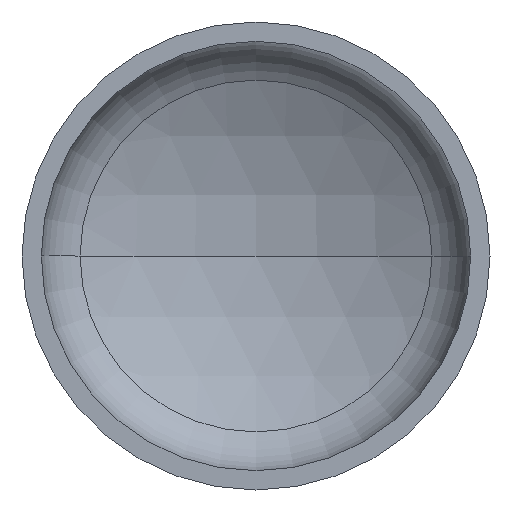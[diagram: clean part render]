
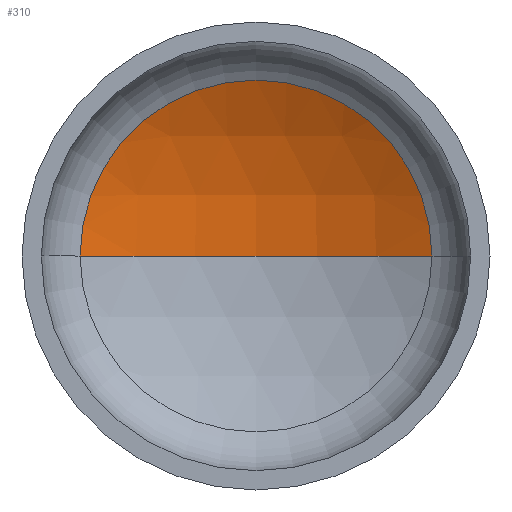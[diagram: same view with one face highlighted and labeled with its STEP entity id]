
A CAD part, front view. The second image highlights one B-rep face of the part: STEP entity #310.
In plain terms, the highlighted spherical face has radius 640 mm.
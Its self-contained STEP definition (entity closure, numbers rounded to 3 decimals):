
#7 = VERTEX_POINT ( 'NONE', #233 ) ;
#8 = AXIS2_PLACEMENT_3D ( 'NONE', #391, #181, #125 ) ;
#18 = CARTESIAN_POINT ( 'NONE',  ( 0., -354.6, 0. ) ) ;
#21 = EDGE_LOOP ( 'NONE', ( #61, #30, #35 ) ) ;
#30 = ORIENTED_EDGE ( 'NONE', *, *, #131, .T. ) ;
#31 = AXIS2_PLACEMENT_3D ( 'NONE', #328, #188, #184 ) ;
#35 = ORIENTED_EDGE ( 'NONE', *, *, #87, .T. ) ;
#38 = AXIS2_PLACEMENT_3D ( 'NONE', #18, #253, #217 ) ;
#40 = AXIS2_PLACEMENT_3D ( 'NONE', #209, #205, #207 ) ;
#61 = ORIENTED_EDGE ( 'NONE', *, *, #148, .F. ) ;
#67 = VERTEX_POINT ( 'NONE', #252 ) ;
#87 = EDGE_CURVE ( 'NONE', #67, #113, #156, .T. ) ;
#110 = SPHERICAL_SURFACE ( 'NONE', #8, 640. ) ;
#113 = VERTEX_POINT ( 'NONE', #257 ) ;
#125 = DIRECTION ( 'NONE',  ( -1., 0., 0. ) ) ;
#131 = EDGE_CURVE ( 'NONE', #7, #67, #149, .T. ) ;
#148 = EDGE_CURVE ( 'NONE', #7, #113, #399, .T. ) ;
#149 = CIRCLE ( 'NONE', #38, 640. ) ;
#156 = CIRCLE ( 'NONE', #40, 300.738 ) ;
#181 = DIRECTION ( 'NONE',  ( 0., 0., -1. ) ) ;
#184 = DIRECTION ( 'NONE',  ( 1., 0., 0. ) ) ;
#188 = DIRECTION ( 'NONE',  ( 0., 0., 1. ) ) ;
#205 = DIRECTION ( 'NONE',  ( 0., -1., 0. ) ) ;
#207 = DIRECTION ( 'NONE',  ( 1., 0., 0. ) ) ;
#209 = CARTESIAN_POINT ( 'NONE',  ( 0., 210.34, 0. ) ) ;
#217 = DIRECTION ( 'NONE',  ( -1., 0., 0. ) ) ;
#233 = CARTESIAN_POINT ( 'NONE',  ( 0., 285.4, 0. ) ) ;
#250 = FACE_OUTER_BOUND ( 'NONE', #21, .T. ) ;
#252 = CARTESIAN_POINT ( 'NONE',  ( 300.738, 210.34, 0. ) ) ;
#253 = DIRECTION ( 'NONE',  ( 0., 0., -1. ) ) ;
#257 = CARTESIAN_POINT ( 'NONE',  ( -300.738, 210.34, 0. ) ) ;
#310 = ADVANCED_FACE ( 'NONE', ( #250 ), #110, .F. ) ;
#328 = CARTESIAN_POINT ( 'NONE',  ( 0., -354.6, 0. ) ) ;
#391 = CARTESIAN_POINT ( 'NONE',  ( 0., -354.6, 0. ) ) ;
#399 = CIRCLE ( 'NONE', #31, 640. ) ;
